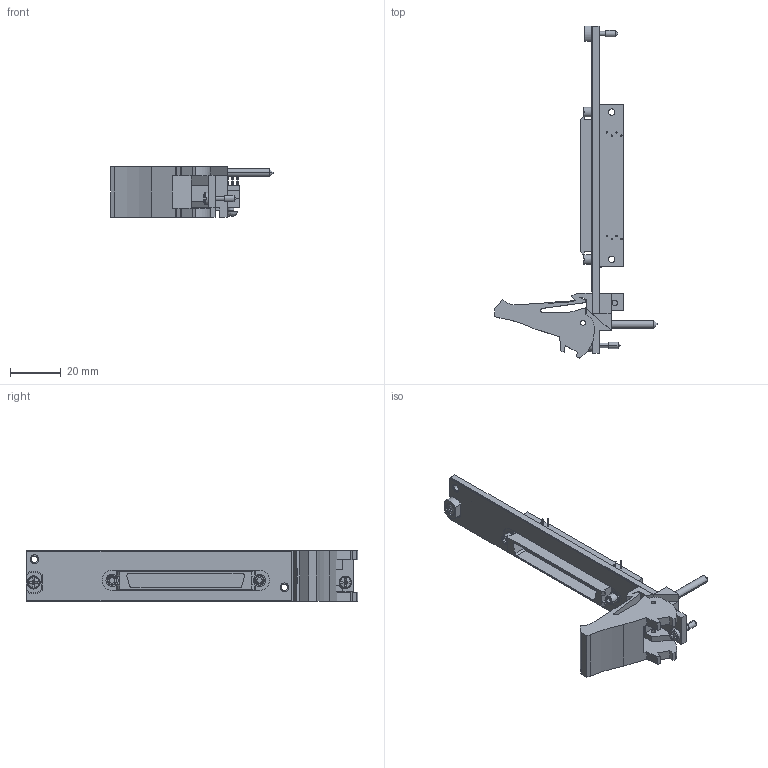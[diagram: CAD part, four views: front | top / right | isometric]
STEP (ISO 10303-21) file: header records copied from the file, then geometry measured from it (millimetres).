
FILE_DESCRIPTION((''),'2;1');
FILE_NAME('CU_PXI-2534','2009-09-29T',('jjorden'),(''),'PRO/ENGINEER BY PARAMETRIC TECHNOLOGY CORPORATION, 2006080','PRO/ENGINEER BY PARAMETRIC TECHNOLOGY CORPORATION, 2006080','');
FILE_SCHEMA(('CONFIG_CONTROL_DESIGN'));
Length unit declared in the file: inch
Products named in the file (1): CU_PXI-2534
Bounding box: 63.73 x 130.51 x 20.02 mm (x, y, z)
Volume: 16925.3 mm3; surface area: 15975.5 mm2
Topology: 2 solids, 2 shells, 472 faces, 1229 edges, 784 vertices
Faces by surface type: plane 313, cylinder 115, cone 24, sphere 8, bspline 6, torus 6
Entity records: 15010 total; most frequent: CARTESIAN_POINT 3163, DIRECTION 2452, ORIENTED_EDGE 2442, EDGE_CURVE 1221, VECTOR 840, LINE 840, AXIS2_PLACEMENT_3D 806, VERTEX_POINT 803
